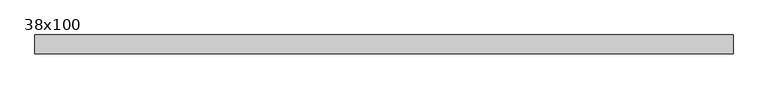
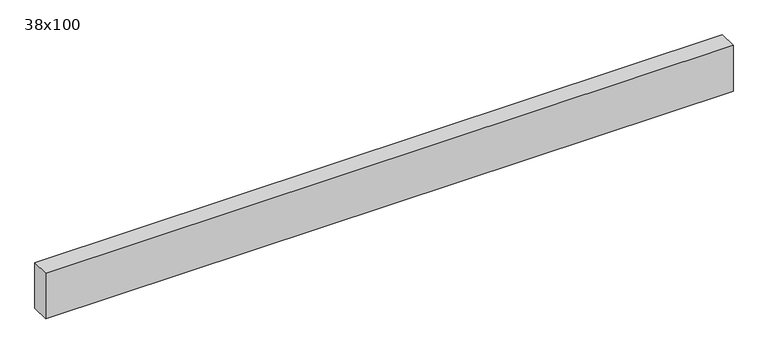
"""IFC4 building model written with IfcOpenShell, lengths in millimetres: beam geometry, Poutre - Bois de construction de dimensions courantes : 38x100."""

from ifc_helpers import new_model, si_unit, frame, origin, place, context, project, spatial, polyline, outline, extrude, source, transform, mapped, element, save


def beam_38x100_21f78f3b(model_context):
    return source(origin(), model_context, "Body", "SweptSolid", [
        extrude(outline(polyline([(691.0, 19.05), (691.0, -19.05), (-730.0, -19.05), (-730.0, 19.05), (691.0, 19.05)])), frame((0.0, 0.0, -50.0), z_axis=(0.0, 0.0, 1.0), x_axis=(1.0, 0.0, 0.0)), (0.0, 0.0, 1.0), 100.0),
    ])


if __name__ == "__main__":
    model = new_model("IFC4")
    model_context = context("Model", 3, world=origin())
    ifc_project = project(units=[si_unit("LENGTHUNIT", "METRE", prefix="MILLI")], contexts=[model_context])
    site = spatial("IfcSite", under=ifc_project)
    building = spatial("IfcBuilding", under=site)
    placement = place(None, origin())
    beam_38x100_shape = beam_38x100_21f78f3b(model_context)
    element("IfcBeam", 1, ObjectType="Poutre - Bois de construction de dimensions courantes : 38x100", at=placement, inside=building, context=model_context, shape_type="MappedRepresentation", body=[
        mapped(beam_38x100_shape, transform((0.0, 0.0, 0.0), x_axis=(1.0, 0.0, 0.0), y_axis=(0.0, 1.0, 0.0), z_axis=(0.0, 0.0, 1.0))),
    ])
    save(model, "model.ifc")
